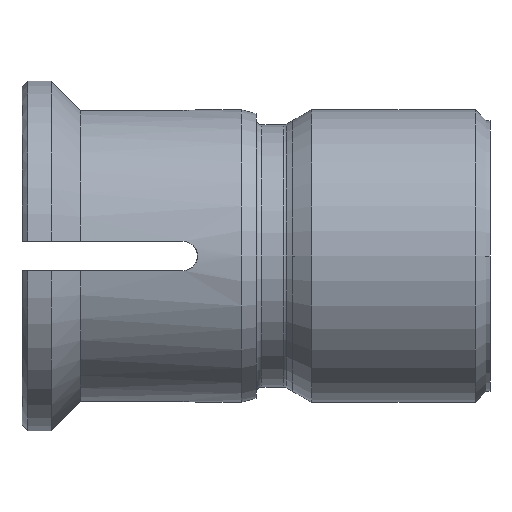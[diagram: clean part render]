
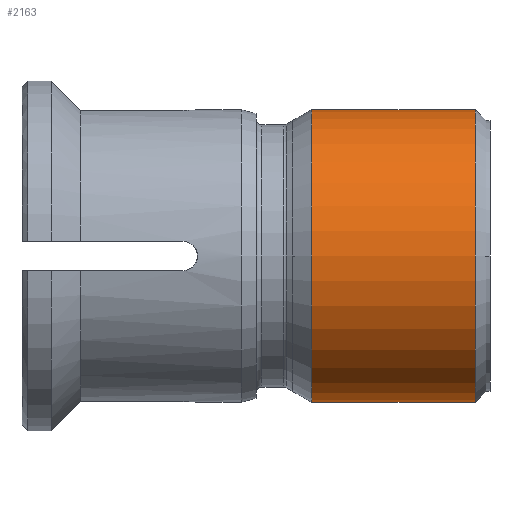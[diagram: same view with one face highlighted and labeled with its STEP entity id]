
A CAD part, left-side view. The second image highlights one B-rep face of the part: STEP entity #2163.
In plain terms, the highlighted cylindrical face has radius 5 mm (diameter 10 mm), a partial arc.
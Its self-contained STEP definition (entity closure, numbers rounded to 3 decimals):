
#1125=CARTESIAN_POINT('',(0.,-9.9,0.));
#1126=DIRECTION('',(0.,1.,0.));
#1127=DIRECTION('',(0.,0.,-1.));
#1128=AXIS2_PLACEMENT_3D('',#1125,#1126,#1127);
#1133=CARTESIAN_POINT('',(0.,-15.5,0.));
#1134=DIRECTION('',(0.,1.,0.));
#1135=DIRECTION('',(0.,0.,-1.));
#1136=AXIS2_PLACEMENT_3D('',#1133,#1134,#1135);
#1141=DIRECTION('',(0.,1.,0.));
#1142=VECTOR('',#1141,5.6);
#1143=CARTESIAN_POINT('',(0.,-15.5,-5.));
#1144=LINE('',#1143,#1142);
#1148=DIRECTION('',(0.,1.,0.));
#1149=VECTOR('',#1148,5.6);
#1150=CARTESIAN_POINT('',(0.,-15.5,5.));
#1151=LINE('',#1150,#1149);
#1253=CARTESIAN_POINT('',(0.,-9.9,-5.));
#1255=VERTEX_POINT('',#1253);
#1261=CARTESIAN_POINT('',(0.,-9.9,5.));
#1263=VERTEX_POINT('',#1261);
#1269=CARTESIAN_POINT('',(0.,-15.5,5.));
#1270=CARTESIAN_POINT('',(0.,-15.5,-5.));
#1271=VERTEX_POINT('',#1269);
#1272=VERTEX_POINT('',#1270);
#2149=CARTESIAN_POINT('',(0.,0.8,0.));
#2150=DIRECTION('',(0.,-1.,0.));
#2151=DIRECTION('',(0.,0.,1.));
#2152=AXIS2_PLACEMENT_3D('',#2149,#2150,#2151);
#2153=CYLINDRICAL_SURFACE('',#2152,5.);
#2155=ORIENTED_EDGE('',*,*,#2154,.F.);
#2157=ORIENTED_EDGE('',*,*,#2156,.T.);
#2158=ORIENTED_EDGE('',*,*,#2144,.T.);
#2160=ORIENTED_EDGE('',*,*,#2159,.F.);
#2161=EDGE_LOOP('',(#2155,#2157,#2158,#2160));
#2162=FACE_OUTER_BOUND('',#2161,.F.);
#1129=CIRCLE('',#1128,5.);
#1137=CIRCLE('',#1136,5.);
#2144=EDGE_CURVE('',#1255,#1263,#1129,.T.);
#2154=EDGE_CURVE('',#1272,#1271,#1137,.T.);
#2156=EDGE_CURVE('',#1272,#1255,#1144,.T.);
#2159=EDGE_CURVE('',#1271,#1263,#1151,.T.);
#2163=ADVANCED_FACE('',(#2162),#2153,.T.);
